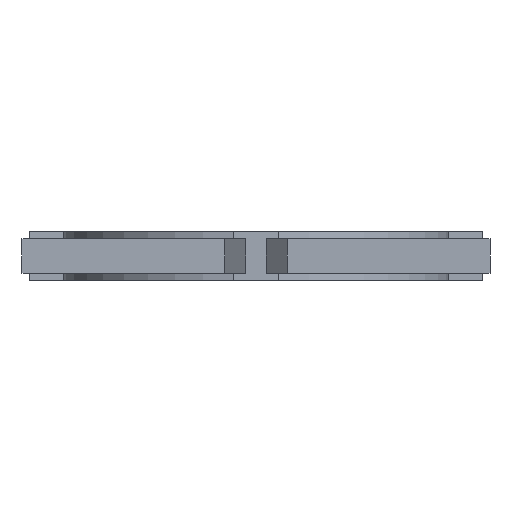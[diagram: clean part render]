
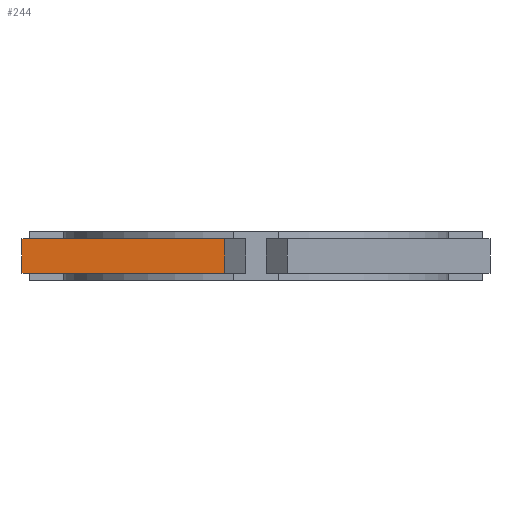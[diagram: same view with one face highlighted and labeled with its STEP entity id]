
A CAD part, front view. The second image highlights one B-rep face of the part: STEP entity #244.
In plain terms, the highlighted planar face has unit normal (0, -1, 0).
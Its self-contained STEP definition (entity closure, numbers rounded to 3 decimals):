
#244 = ADVANCED_FACE( '', ( #505 ), #506, .F. );
#505 = FACE_OUTER_BOUND( '', #832, .T. );
#506 = PLANE( '', #833 );
#832 = EDGE_LOOP( '', ( #1484, #1485, #1486, #1487 ) );
#833 = AXIS2_PLACEMENT_3D( '', #1488, #1489, #1490 );
#1484 = ORIENTED_EDGE( '', *, *, #1618, .T. );
#1485 = ORIENTED_EDGE( '', *, *, #1737, .F. );
#1486 = ORIENTED_EDGE( '', *, *, #1667, .F. );
#1487 = ORIENTED_EDGE( '', *, *, #1692, .T. );
#1488 = CARTESIAN_POINT( '', ( -68., -127.23, 5. ) );
#1489 = DIRECTION( '', ( 0., 1., 0. ) );
#1490 = DIRECTION( '', ( 0., 0., 1. ) );
#1618 = EDGE_CURVE( '', #1935, #1943, #1945, .T. );
#1667 = EDGE_CURVE( '', #2021, #2023, #2024, .T. );
#1692 = EDGE_CURVE( '', #2021, #1935, #2061, .T. );
#1737 = EDGE_CURVE( '', #2023, #1943, #2126, .T. );
#1935 = VERTEX_POINT( '', #2440 );
#1943 = VERTEX_POINT( '', #2452 );
#1945 = LINE( '', #2455, #2456 );
#2021 = VERTEX_POINT( '', #2566 );
#2023 = VERTEX_POINT( '', #2569 );
#2024 = LINE( '', #2570, #2571 );
#2061 = LINE( '', #2633, #2634 );
#2126 = LINE( '', #2739, #2740 );
#2440 = CARTESIAN_POINT( '', ( -68., -127.23, -5. ) );
#2452 = CARTESIAN_POINT( '', ( -9.118, -127.23, -5. ) );
#2455 = CARTESIAN_POINT( '', ( -68., -127.23, -5. ) );
#2456 = VECTOR( '', #2940, 1000. );
#2566 = CARTESIAN_POINT( '', ( -68., -127.23, 5. ) );
#2569 = CARTESIAN_POINT( '', ( -9.118, -127.23, 5. ) );
#2570 = CARTESIAN_POINT( '', ( -68., -127.23, 5. ) );
#2571 = VECTOR( '', #2989, 1000. );
#2633 = CARTESIAN_POINT( '', ( -68., -127.23, 5. ) );
#2634 = VECTOR( '', #3008, 1000. );
#2739 = CARTESIAN_POINT( '', ( -9.118, -127.23, 5. ) );
#2740 = VECTOR( '', #3048, 1000. );
#2940 = DIRECTION( '', ( 1., 0., 0. ) );
#2989 = DIRECTION( '', ( 1., 0., 0. ) );
#3008 = DIRECTION( '', ( 0., 0., -1. ) );
#3048 = DIRECTION( '', ( 0., 0., -1. ) );
